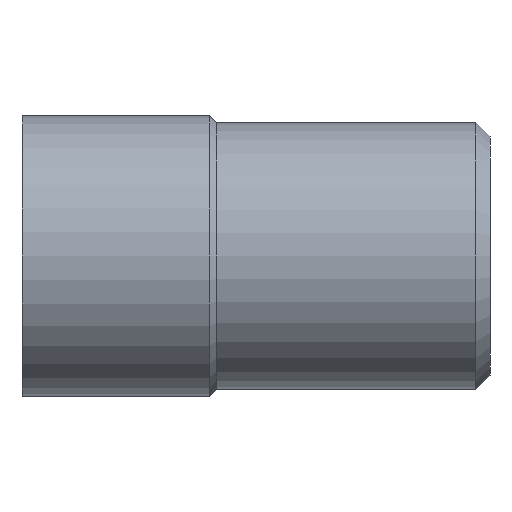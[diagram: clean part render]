
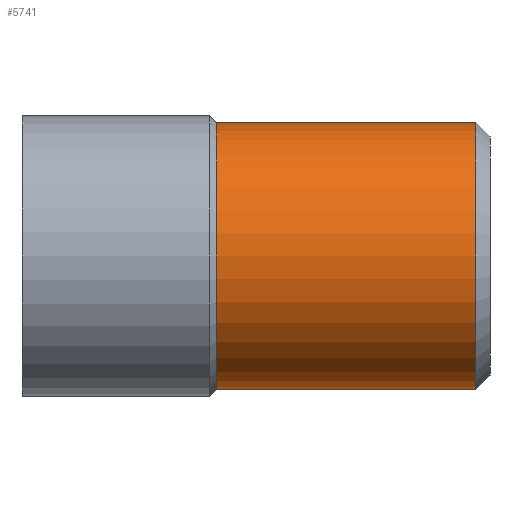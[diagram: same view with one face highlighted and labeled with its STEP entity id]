
A CAD part, left-side view. The second image highlights one B-rep face of the part: STEP entity #5741.
In plain terms, the highlighted cylindrical face has radius 2.85 mm (diameter 5.7 mm), a partial arc.
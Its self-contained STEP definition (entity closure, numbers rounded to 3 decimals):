
#342 = AXIS2_PLACEMENT_3D ( 'NONE', #5739, #2191, #6347 ) ;
#428 = ORIENTED_EDGE ( 'NONE', *, *, #4969, .T. ) ;
#482 = CARTESIAN_POINT ( 'NONE',  ( 0., 3.29, -2.85 ) ) ;
#665 = DIRECTION ( 'NONE',  ( 0., 1., 0. ) ) ;
#753 = CIRCLE ( 'NONE', #342, 2.85 ) ;
#818 = VECTOR ( 'NONE', #6212, 1000. ) ;
#1024 = VERTEX_POINT ( 'NONE', #4485 ) ;
#1378 = FACE_OUTER_BOUND ( 'NONE', #1903, .T. ) ;
#1392 = DIRECTION ( 'NONE',  ( 0., 1., 0. ) ) ;
#1903 = EDGE_LOOP ( 'NONE', ( #6776, #3735, #428, #7585 ) ) ;
#2191 = DIRECTION ( 'NONE',  ( 0., 1., 0. ) ) ;
#2581 = CYLINDRICAL_SURFACE ( 'NONE', #7523, 2.85 ) ;
#3030 = CARTESIAN_POINT ( 'NONE',  ( 0., 3.29, 0. ) ) ;
#3041 = VERTEX_POINT ( 'NONE', #5683 ) ;
#3068 = EDGE_CURVE ( 'NONE', #1024, #3041, #753, .T. ) ;
#3695 = VECTOR ( 'NONE', #4618, 1000. ) ;
#3735 = ORIENTED_EDGE ( 'NONE', *, *, #3068, .T. ) ;
#3750 = EDGE_CURVE ( 'NONE', #5362, #4230, #3830, .T. ) ;
#3830 = CIRCLE ( 'NONE', #4810, 2.85 ) ;
#3870 = LINE ( 'NONE', #482, #3695 ) ;
#3964 = LINE ( 'NONE', #5598, #818 ) ;
#4230 = VERTEX_POINT ( 'NONE', #7181 ) ;
#4485 = CARTESIAN_POINT ( 'NONE',  ( 0., -9.7, -2.85 ) ) ;
#4618 = DIRECTION ( 'NONE',  ( 0., 1., 0. ) ) ;
#4810 = AXIS2_PLACEMENT_3D ( 'NONE', #4940, #1392, #5549 ) ;
#4940 = CARTESIAN_POINT ( 'NONE',  ( 0., -4.15, 0. ) ) ;
#4969 = EDGE_CURVE ( 'NONE', #3041, #4230, #3964, .T. ) ;
#5199 = EDGE_CURVE ( 'NONE', #1024, #5362, #3870, .T. ) ;
#5362 = VERTEX_POINT ( 'NONE', #6579 ) ;
#5549 = DIRECTION ( 'NONE',  ( 0., 0., 1. ) ) ;
#5598 = CARTESIAN_POINT ( 'NONE',  ( 0., 3.29, 2.85 ) ) ;
#5683 = CARTESIAN_POINT ( 'NONE',  ( 0., -9.7, 2.85 ) ) ;
#5739 = CARTESIAN_POINT ( 'NONE',  ( 0., -9.7, 0. ) ) ;
#5741 = ADVANCED_FACE ( 'NONE', ( #1378 ), #2581, .T. ) ;
#6212 = DIRECTION ( 'NONE',  ( 0., 1., 0. ) ) ;
#6347 = DIRECTION ( 'NONE',  ( 0., 0., 1. ) ) ;
#6579 = CARTESIAN_POINT ( 'NONE',  ( 0., -4.15, -2.85 ) ) ;
#6631 = DIRECTION ( 'NONE',  ( 0., 0., 1. ) ) ;
#6776 = ORIENTED_EDGE ( 'NONE', *, *, #5199, .F. ) ;
#7181 = CARTESIAN_POINT ( 'NONE',  ( 0., -4.15, 2.85 ) ) ;
#7523 = AXIS2_PLACEMENT_3D ( 'NONE', #3030, #665, #6631 ) ;
#7585 = ORIENTED_EDGE ( 'NONE', *, *, #3750, .F. ) ;
